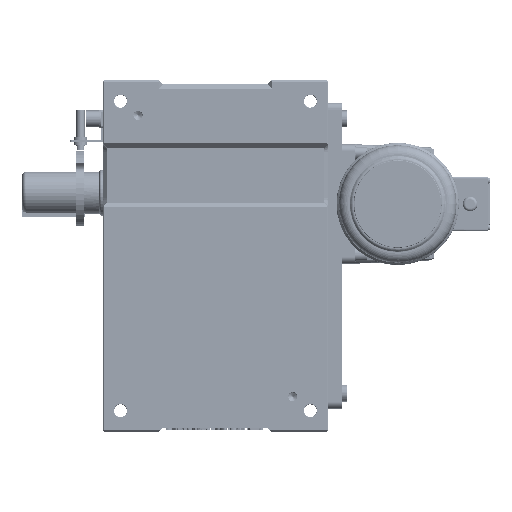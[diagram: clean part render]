
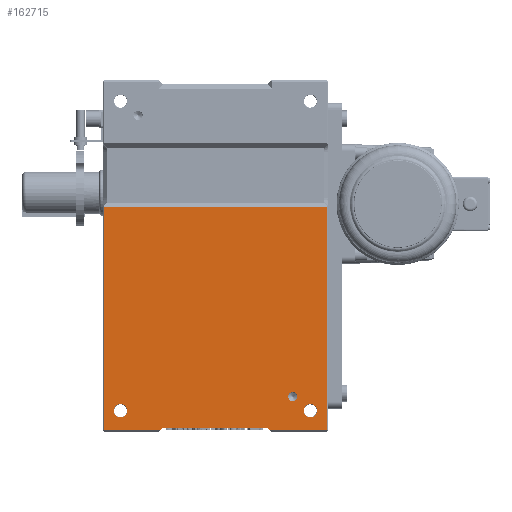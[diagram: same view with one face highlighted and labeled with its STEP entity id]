
A CAD part, front view. The second image highlights one B-rep face of the part: STEP entity #162715.
In plain terms, the highlighted planar face has unit normal (0, -1, 0).
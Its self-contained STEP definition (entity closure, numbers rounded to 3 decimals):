
#1590 = ORIENTED_EDGE ( 'NONE', *, *, #161265, .F. ) ;
#4296 = CIRCLE ( 'NONE', #131533, 9.5 ) ;
#5146 = CIRCLE ( 'NONE', #120846, 9.5 ) ;
#8601 = EDGE_LOOP ( 'NONE', ( #72830, #93742 ) ) ;
#8617 = DIRECTION ( 'NONE',  ( 0., 0., 1. ) ) ;
#8911 = VERTEX_POINT ( 'NONE', #117365 ) ;
#9156 = CARTESIAN_POINT ( 'NONE',  ( 125.5, -175., -220. ) ) ;
#9262 = VECTOR ( 'NONE', #153333, 1000. ) ;
#9927 = VECTOR ( 'NONE', #54693, 1000. ) ;
#10342 = CARTESIAN_POINT ( 'NONE',  ( 144.5, -175., -220. ) ) ;
#12781 = LINE ( 'NONE', #32265, #106669 ) ;
#13041 = CARTESIAN_POINT ( 'NONE',  ( 110., -175., -206.5 ) ) ;
#14476 = CARTESIAN_POINT ( 'NONE',  ( 110., -175., -200. ) ) ;
#14755 = DIRECTION ( 'NONE',  ( -1., 0., 0. ) ) ;
#19278 = ORIENTED_EDGE ( 'NONE', *, *, #75331, .F. ) ;
#19827 = VERTEX_POINT ( 'NONE', #95273 ) ;
#19840 = LINE ( 'NONE', #116913, #151755 ) ;
#21348 = DIRECTION ( 'NONE',  ( -0.707, 0., 0.707 ) ) ;
#24934 = CARTESIAN_POINT ( 'NONE',  ( 110., -175., -193.5 ) ) ;
#25885 = FACE_OUTER_BOUND ( 'NONE', #150302, .T. ) ;
#26274 = CIRCLE ( 'NONE', #79115, 9.5 ) ;
#27299 = DIRECTION ( 'NONE',  ( 0., 0., -1. ) ) ;
#31882 = VERTEX_POINT ( 'NONE', #110012 ) ;
#32265 = CARTESIAN_POINT ( 'NONE',  ( -74., -175., -244. ) ) ;
#32504 = VECTOR ( 'NONE', #127682, 1000. ) ;
#34306 = AXIS2_PLACEMENT_3D ( 'NONE', #144607, #68074, #157495 ) ;
#35517 = CIRCLE ( 'NONE', #159569, 6.5 ) ;
#36512 = VERTEX_POINT ( 'NONE', #118148 ) ;
#42341 = CARTESIAN_POINT ( 'NONE',  ( -144.5, -175., -220. ) ) ;
#43256 = LINE ( 'NONE', #127515, #9262 ) ;
#43266 = CARTESIAN_POINT ( 'NONE',  ( 158., -175., 70. ) ) ;
#45091 = DIRECTION ( 'NONE',  ( -0.707, 0., -0.707 ) ) ;
#45804 = CARTESIAN_POINT ( 'NONE',  ( 78., -175., -248. ) ) ;
#46849 = EDGE_CURVE ( 'NONE', #62713, #129399, #35517, .T. ) ;
#51181 = CARTESIAN_POINT ( 'NONE',  ( 0., -175., -248. ) ) ;
#51668 = CARTESIAN_POINT ( 'NONE',  ( -135., -175., -220. ) ) ;
#53501 = CIRCLE ( 'NONE', #34306, 9.5 ) ;
#53990 = DIRECTION ( 'NONE',  ( 0., -1., 0. ) ) ;
#54693 = DIRECTION ( 'NONE',  ( 0., 0., -1. ) ) ;
#55893 = CARTESIAN_POINT ( 'NONE',  ( 0., -175., -248. ) ) ;
#55907 = DIRECTION ( 'NONE',  ( 0., -1., 0. ) ) ;
#55976 = VERTEX_POINT ( 'NONE', #62478 ) ;
#56817 = VECTOR ( 'NONE', #21348, 1000. ) ;
#57332 = ORIENTED_EDGE ( 'NONE', *, *, #95007, .F. ) ;
#58492 = LINE ( 'NONE', #55893, #88418 ) ;
#59301 = CARTESIAN_POINT ( 'NONE',  ( 0., -175., 0. ) ) ;
#62478 = CARTESIAN_POINT ( 'NONE',  ( -125.5, -175., -220. ) ) ;
#62713 = VERTEX_POINT ( 'NONE', #24934 ) ;
#62833 = ORIENTED_EDGE ( 'NONE', *, *, #164669, .F. ) ;
#63881 = FACE_BOUND ( 'NONE', #133759, .T. ) ;
#64515 = DIRECTION ( 'NONE',  ( 0., 0., -1. ) ) ;
#64624 = ORIENTED_EDGE ( 'NONE', *, *, #103320, .F. ) ;
#67466 = EDGE_CURVE ( 'NONE', #129399, #62713, #161818, .T. ) ;
#68074 = DIRECTION ( 'NONE',  ( 0., -1., 0. ) ) ;
#69119 = DIRECTION ( 'NONE',  ( 0., -1., 0. ) ) ;
#69649 = EDGE_CURVE ( 'NONE', #89116, #107190, #5146, .T. ) ;
#71056 = VECTOR ( 'NONE', #8617, 1000. ) ;
#72115 = DIRECTION ( 'NONE',  ( 0., 0., 1. ) ) ;
#72830 = ORIENTED_EDGE ( 'NONE', *, *, #67466, .F. ) ;
#75331 = EDGE_CURVE ( 'NONE', #19827, #36512, #19840, .T. ) ;
#75995 = VERTEX_POINT ( 'NONE', #143562 ) ;
#77894 = LINE ( 'NONE', #114891, #9927 ) ;
#79115 = AXIS2_PLACEMENT_3D ( 'NONE', #51668, #141035, #64515 ) ;
#87280 = AXIS2_PLACEMENT_3D ( 'NONE', #132424, #55907, #145261 ) ;
#88418 = VECTOR ( 'NONE', #132407, 1000. ) ;
#89116 = VERTEX_POINT ( 'NONE', #10342 ) ;
#92230 = ORIENTED_EDGE ( 'NONE', *, *, #134279, .F. ) ;
#93742 = ORIENTED_EDGE ( 'NONE', *, *, #46849, .F. ) ;
#93885 = FACE_BOUND ( 'NONE', #8601, .T. ) ;
#95007 = EDGE_CURVE ( 'NONE', #36512, #31882, #12781, .T. ) ;
#95273 = CARTESIAN_POINT ( 'NONE',  ( 74., -175., -244. ) ) ;
#96168 = VERTEX_POINT ( 'NONE', #42341 ) ;
#97845 = VERTEX_POINT ( 'NONE', #43266 ) ;
#99197 = EDGE_CURVE ( 'NONE', #31882, #75995, #58492, .T. ) ;
#103320 = EDGE_CURVE ( 'NONE', #75995, #8911, #108962, .T. ) ;
#103774 = DIRECTION ( 'NONE',  ( 0., -1., 0. ) ) ;
#106669 = VECTOR ( 'NONE', #45091, 1000. ) ;
#107190 = VERTEX_POINT ( 'NONE', #9156 ) ;
#108799 = ORIENTED_EDGE ( 'NONE', *, *, #147459, .F. ) ;
#108962 = LINE ( 'NONE', #161722, #71056 ) ;
#109202 = AXIS2_PLACEMENT_3D ( 'NONE', #59301, #148710, #72115 ) ;
#110012 = CARTESIAN_POINT ( 'NONE',  ( -78., -175., -248. ) ) ;
#114891 = CARTESIAN_POINT ( 'NONE',  ( 158., -175., 0. ) ) ;
#116913 = CARTESIAN_POINT ( 'NONE',  ( 0., -175., -244. ) ) ;
#117365 = CARTESIAN_POINT ( 'NONE',  ( -158., -175., 70. ) ) ;
#118138 = ORIENTED_EDGE ( 'NONE', *, *, #123822, .F. ) ;
#118148 = CARTESIAN_POINT ( 'NONE',  ( -74., -175., -244. ) ) ;
#120846 = AXIS2_PLACEMENT_3D ( 'NONE', #145650, #69119, #158554 ) ;
#120861 = CARTESIAN_POINT ( 'NONE',  ( 158., -175., -248. ) ) ;
#123195 = VERTEX_POINT ( 'NONE', #45804 ) ;
#123822 = EDGE_CURVE ( 'NONE', #159650, #123195, #164422, .T. ) ;
#124072 = CARTESIAN_POINT ( 'NONE',  ( 78., -175., -248. ) ) ;
#127515 = CARTESIAN_POINT ( 'NONE',  ( 0., -175., 70. ) ) ;
#127682 = DIRECTION ( 'NONE',  ( -1., 0., 0. ) ) ;
#127794 = FACE_BOUND ( 'NONE', #134262, .T. ) ;
#129399 = VERTEX_POINT ( 'NONE', #13041 ) ;
#129696 = EDGE_CURVE ( 'NONE', #123195, #19827, #158821, .T. ) ;
#130491 = CARTESIAN_POINT ( 'NONE',  ( -135., -175., -220. ) ) ;
#131533 = AXIS2_PLACEMENT_3D ( 'NONE', #130491, #53990, #143359 ) ;
#132407 = DIRECTION ( 'NONE',  ( -1., 0., 0. ) ) ;
#132424 = CARTESIAN_POINT ( 'NONE',  ( 110., -175., -200. ) ) ;
#133759 = EDGE_LOOP ( 'NONE', ( #1590, #151525 ) ) ;
#134262 = EDGE_LOOP ( 'NONE', ( #147408, #92230 ) ) ;
#134279 = EDGE_CURVE ( 'NONE', #107190, #89116, #53501, .T. ) ;
#141035 = DIRECTION ( 'NONE',  ( 0., -1., 0. ) ) ;
#141921 = ORIENTED_EDGE ( 'NONE', *, *, #99197, .F. ) ;
#143359 = DIRECTION ( 'NONE',  ( 0., 0., -1. ) ) ;
#143562 = CARTESIAN_POINT ( 'NONE',  ( -158., -175., -248. ) ) ;
#144607 = CARTESIAN_POINT ( 'NONE',  ( 135., -175., -220. ) ) ;
#145261 = DIRECTION ( 'NONE',  ( 0., 0., -1. ) ) ;
#145650 = CARTESIAN_POINT ( 'NONE',  ( 135., -175., -220. ) ) ;
#146331 = EDGE_CURVE ( 'NONE', #96168, #55976, #26274, .T. ) ;
#147408 = ORIENTED_EDGE ( 'NONE', *, *, #69649, .F. ) ;
#147459 = EDGE_CURVE ( 'NONE', #97845, #159650, #77894, .T. ) ;
#147627 = PLANE ( 'NONE',  #109202 ) ;
#148710 = DIRECTION ( 'NONE',  ( 0., 1., 0. ) ) ;
#149500 = ORIENTED_EDGE ( 'NONE', *, *, #129696, .F. ) ;
#150302 = EDGE_LOOP ( 'NONE', ( #141921, #57332, #19278, #149500, #118138, #108799, #62833, #64624 ) ) ;
#151525 = ORIENTED_EDGE ( 'NONE', *, *, #146331, .F. ) ;
#151755 = VECTOR ( 'NONE', #14755, 1000. ) ;
#153333 = DIRECTION ( 'NONE',  ( 1., 0., 0. ) ) ;
#157495 = DIRECTION ( 'NONE',  ( 1., 0., 0. ) ) ;
#158554 = DIRECTION ( 'NONE',  ( 1., 0., 0. ) ) ;
#158821 = LINE ( 'NONE', #124072, #56817 ) ;
#159569 = AXIS2_PLACEMENT_3D ( 'NONE', #14476, #103774, #27299 ) ;
#159650 = VERTEX_POINT ( 'NONE', #120861 ) ;
#161265 = EDGE_CURVE ( 'NONE', #55976, #96168, #4296, .T. ) ;
#161722 = CARTESIAN_POINT ( 'NONE',  ( -158., -175., 0. ) ) ;
#161818 = CIRCLE ( 'NONE', #87280, 6.5 ) ;
#162715 = ADVANCED_FACE ( 'NONE', ( #93885, #63881, #127794, #25885 ), #147627, .F. ) ;
#164422 = LINE ( 'NONE', #51181, #32504 ) ;
#164669 = EDGE_CURVE ( 'NONE', #8911, #97845, #43256, .T. ) ;
